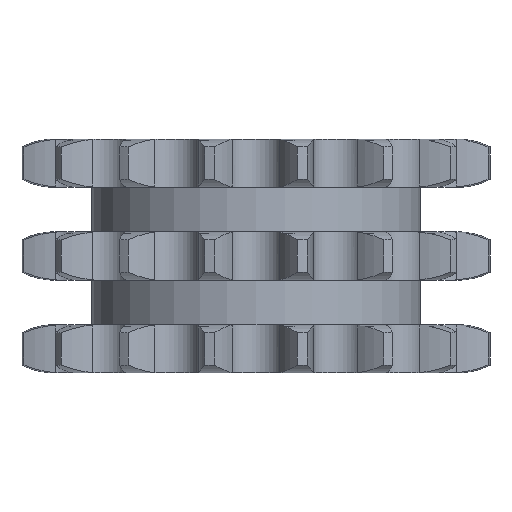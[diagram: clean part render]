
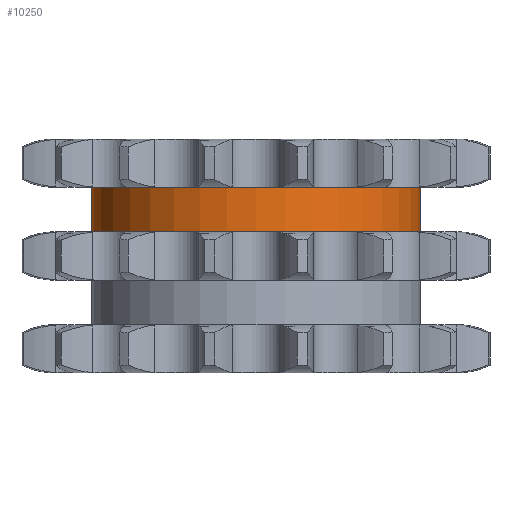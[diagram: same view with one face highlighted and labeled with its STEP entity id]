
A CAD part, left-side view. The second image highlights one B-rep face of the part: STEP entity #10250.
In plain terms, the highlighted cylindrical face has radius 24.549 mm (diameter 49.098 mm), a partial arc.
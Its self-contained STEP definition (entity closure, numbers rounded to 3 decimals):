
#1261=DIRECTION('',(0.,0.,-1.));
#1262=VECTOR('',#1261,6.65);
#1263=CARTESIAN_POINT('',(0.,24.549,10.25));
#1264=LINE('',#1263,#1262);
#1268=CARTESIAN_POINT('',(0.,0.,10.25));
#1269=DIRECTION('',(0.,0.,1.));
#1270=DIRECTION('',(0.,1.,0.));
#1271=AXIS2_PLACEMENT_3D('',#1268,#1269,#1270);
#1276=DIRECTION('',(0.,0.,-1.));
#1277=VECTOR('',#1276,6.65);
#1278=CARTESIAN_POINT('',(0.,-24.549,10.25));
#1279=LINE('',#1278,#1277);
#1283=CARTESIAN_POINT('',(0.,0.,3.6));
#1284=DIRECTION('',(0.,0.,1.));
#1285=DIRECTION('',(0.,1.,0.));
#1286=AXIS2_PLACEMENT_3D('',#1283,#1284,#1285);
#8233=CARTESIAN_POINT('',(0.,24.549,10.25));
#8234=CARTESIAN_POINT('',(0.,24.549,3.6));
#8235=VERTEX_POINT('',#8233);
#8236=VERTEX_POINT('',#8234);
#8237=CARTESIAN_POINT('',(0.,-24.549,10.25));
#8238=CARTESIAN_POINT('',(0.,-24.549,3.6));
#8239=VERTEX_POINT('',#8237);
#8240=VERTEX_POINT('',#8238);
#10238=CARTESIAN_POINT('',(0.,0.,11.275));
#10239=DIRECTION('',(0.,0.,-1.));
#10240=DIRECTION('',(0.,-1.,0.));
#10241=AXIS2_PLACEMENT_3D('',#10238,#10239,#10240);
#10242=CYLINDRICAL_SURFACE('',#10241,24.549);
#10243=ORIENTED_EDGE('',*,*,#10228,.F.);
#10244=ORIENTED_EDGE('',*,*,#10218,.T.);
#10245=ORIENTED_EDGE('',*,*,#10232,.T.);
#10247=ORIENTED_EDGE('',*,*,#10246,.F.);
#10248=EDGE_LOOP('',(#10243,#10244,#10245,#10247));
#10249=FACE_OUTER_BOUND('',#10248,.F.);
#10250=ADVANCED_FACE('',(#10249),#10242,.T.);
#1272=CIRCLE('',#1271,24.549);
#1287=CIRCLE('',#1286,24.549);
#10218=EDGE_CURVE('',#8235,#8239,#1272,.T.);
#10228=EDGE_CURVE('',#8235,#8236,#1264,.T.);
#10232=EDGE_CURVE('',#8239,#8240,#1279,.T.);
#10246=EDGE_CURVE('',#8236,#8240,#1287,.T.);
